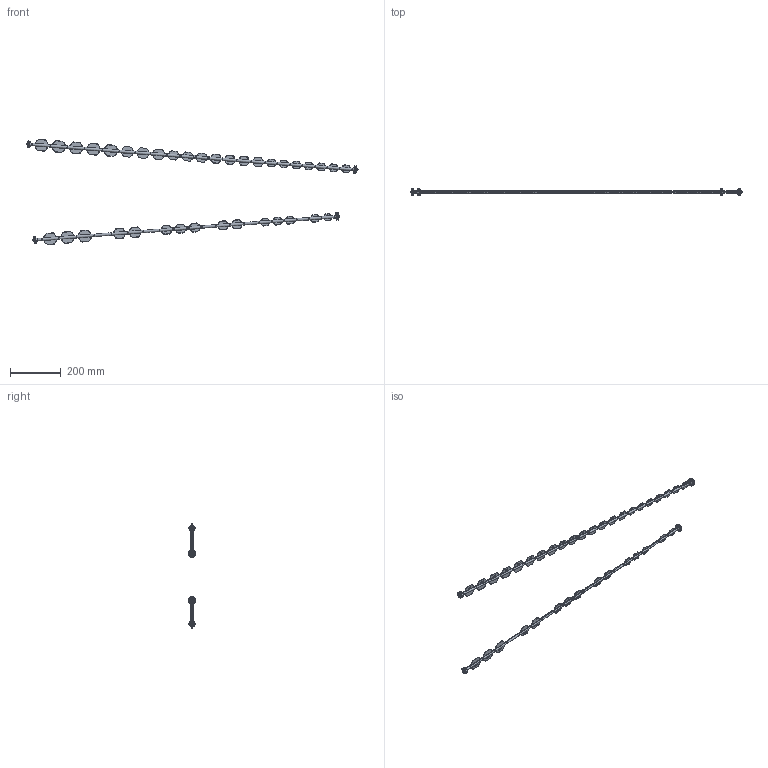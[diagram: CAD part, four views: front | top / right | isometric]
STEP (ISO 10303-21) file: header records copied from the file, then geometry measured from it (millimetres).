
FILE_DESCRIPTION((''),'2;1');
FILE_NAME('HBG_0000237310_ASM','2025-11-12T18:44:37',('Wyndorps'),(''),'CREO PARAMETRIC BY PTC INC, 2025323','CREO PARAMETRIC BY PTC INC, 2025323','');
FILE_SCHEMA(('CONFIG_CONTROL_DESIGN'));
Products named in the file (55): 0000237114; 0000237115; 0000237116; 0000237117; 0000237118; 0000237119; 0000237120; 0000237121; 0000237122; 0000237123; 0000237124; 0000237125; 0000237126; 0000237127; 0000237128; 0000237129; 0000237130; 0000237131; 0000237132; 0000237133; 0000237134; 0000237135; 0000237224; 0000237086; 0000237294; 0000237295; 0000237227; 0000237228; 9000037004; 9000068001; 0000237099; 0000237100; 0000237101; 0000236846; 0000237102; 0000237103; 0000236847; 0000237105; 0000237106; 0000237104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
Assembly tree (62 placements, depth 2):
  HBG_0000237310_ASM
    0000237114
    0000237115
    0000237116
    0000237117
    0000237118
    0000237119
    0000237120
    0000237121
    0000237122
    0000237123
    0000237124
    0000237125
    0000237126
    0000237127
    0000237128
    0000237129
    0000237130
    0000237131
    0000237132
    0000237133
    0000237134
    0000237135
    0000237224
    0000237086
    0000237294
    0000237295
    0000237227  x2
    0000237228  x2
    9000037004  x4
    9000068001  x4
    0000237099
    0000237100
    0000237101
    0000236846
    0000237102
    0000237103
    0000236847
    0000237105
    0000237106
    0000237104
    0000236848
    0000237107
    0000237108
    0000236849
    0000237109
    0000237110
    0000237111
    0000236850
    0000237112
    0000237113
    0000237085
    0000237223
    0000237292
    0000237293
Bounding box: 1307.15 x 29.39 x 414.91 mm (x, y, z)
Volume: 265615.2 mm3; surface area: 261876.7 mm2
Topology: 62 solids, 70 shells, 4774 faces, 12827 edges, 8372 vertices
Faces by surface type: plane 2730, cylinder 793, extrusion 655, torus 268, bspline 184, cone 144
Entity records: 179469 total; most frequent: CARTESIAN_POINT 66446, ORIENTED_EDGE 24786, DIRECTION 20704, EDGE_CURVE 12403, VERTEX_POINT 8139, VECTOR 7762, LINE 7107, AXIS2_PLACEMENT_3D 6471
